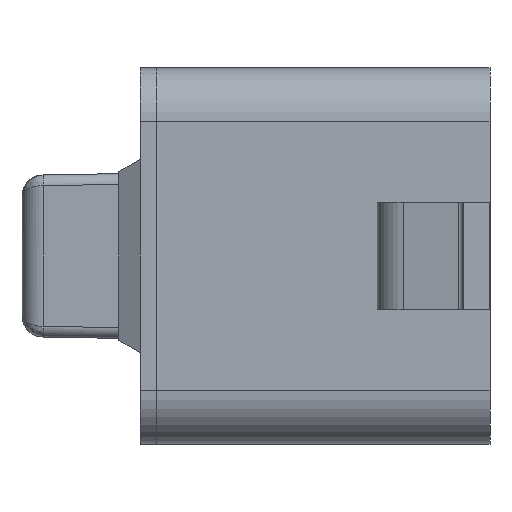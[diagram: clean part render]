
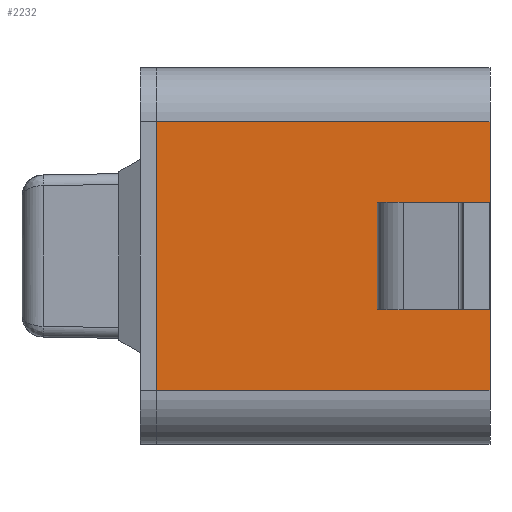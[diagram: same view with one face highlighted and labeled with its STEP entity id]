
A CAD part, left-side view. The second image highlights one B-rep face of the part: STEP entity #2232.
In plain terms, the highlighted planar face has unit normal (-1, 0, 0).
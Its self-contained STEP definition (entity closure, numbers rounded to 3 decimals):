
#38=DIRECTION('',(0.,0.,1.));
#39=VECTOR('',#38,2.5);
#40=CARTESIAN_POINT('',(-3.,0.,-1.25));
#41=LINE('',#40,#39);
#227=DIRECTION('',(0.,0.,1.));
#228=VECTOR('',#227,2.5);
#229=CARTESIAN_POINT('',(-3.,-3.1,-1.25));
#230=LINE('',#229,#228);
#652=DIRECTION('',(0.,1.,0.));
#653=VECTOR('',#652,0.25);
#654=CARTESIAN_POINT('',(-3.,-2.3,0.5));
#655=LINE('',#654,#653);
#659=DIRECTION('',(0.,0.,1.));
#660=VECTOR('',#659,1.);
#661=CARTESIAN_POINT('',(-3.,-2.05,-0.5));
#662=LINE('',#661,#660);
#666=DIRECTION('',(0.,1.,0.));
#667=VECTOR('',#666,0.25);
#668=CARTESIAN_POINT('',(-3.,-2.3,-0.5));
#669=LINE('',#668,#667);
#673=DIRECTION('',(0.,0.,1.));
#674=VECTOR('',#673,1.);
#675=CARTESIAN_POINT('',(-3.,-2.3,-0.5));
#676=LINE('',#675,#674);
#680=DIRECTION('',(0.,-1.,0.));
#681=VECTOR('',#680,3.1);
#682=CARTESIAN_POINT('',(-3.,0.,1.25));
#683=LINE('',#682,#681);
#687=DIRECTION('',(0.,-1.,0.));
#688=VECTOR('',#687,3.1);
#689=CARTESIAN_POINT('',(-3.,0.,-1.25));
#690=LINE('',#689,#688);
#1446=CARTESIAN_POINT('',(-3.,-2.3,0.5));
#1447=CARTESIAN_POINT('',(-3.,-2.05,0.5));
#1448=VERTEX_POINT('',#1446);
#1449=VERTEX_POINT('',#1447);
#1450=CARTESIAN_POINT('',(-3.,-2.3,-0.5));
#1451=CARTESIAN_POINT('',(-3.,-2.05,-0.5));
#1452=VERTEX_POINT('',#1450);
#1453=VERTEX_POINT('',#1451);
#1455=CARTESIAN_POINT('',(-3.,-3.1,1.25));
#1457=VERTEX_POINT('',#1455);
#1458=CARTESIAN_POINT('',(-3.,0.,1.25));
#1459=VERTEX_POINT('',#1458);
#1470=CARTESIAN_POINT('',(-3.,-3.1,-1.25));
#1472=VERTEX_POINT('',#1470);
#1476=CARTESIAN_POINT('',(-3.,0.,-1.25));
#1477=VERTEX_POINT('',#1476);
#2213=CARTESIAN_POINT('',(-3.,0.,-1.75));
#2214=DIRECTION('',(-1.,0.,0.));
#2215=DIRECTION('',(0.,0.,1.));
#2216=AXIS2_PLACEMENT_3D('',#2213,#2214,#2215);
#2217=PLANE('',#2216);
#2218=ORIENTED_EDGE('',*,*,#1683,.T.);
#2219=ORIENTED_EDGE('',*,*,#1709,.F.);
#2221=ORIENTED_EDGE('',*,*,#2220,.F.);
#2222=ORIENTED_EDGE('',*,*,#1621,.T.);
#2223=EDGE_LOOP('',(#2218,#2219,#2221,#2222));
#2224=FACE_OUTER_BOUND('',#2223,.F.);
#2225=ORIENTED_EDGE('',*,*,#1772,.T.);
#2227=ORIENTED_EDGE('',*,*,#2226,.F.);
#2228=ORIENTED_EDGE('',*,*,#1901,.F.);
#2229=ORIENTED_EDGE('',*,*,#2170,.T.);
#2230=EDGE_LOOP('',(#2225,#2227,#2228,#2229));
#2231=FACE_BOUND('',#2230,.F.);
#1621=EDGE_CURVE('',#1477,#1459,#41,.T.);
#1683=EDGE_CURVE('',#1459,#1457,#683,.T.);
#1709=EDGE_CURVE('',#1472,#1457,#230,.T.);
#1772=EDGE_CURVE('',#1448,#1449,#655,.T.);
#1901=EDGE_CURVE('',#1452,#1453,#669,.T.);
#2170=EDGE_CURVE('',#1452,#1448,#676,.T.);
#2220=EDGE_CURVE('',#1477,#1472,#690,.T.);
#2226=EDGE_CURVE('',#1453,#1449,#662,.T.);
#2232=ADVANCED_FACE('',(#2224,#2231),#2217,.T.);
